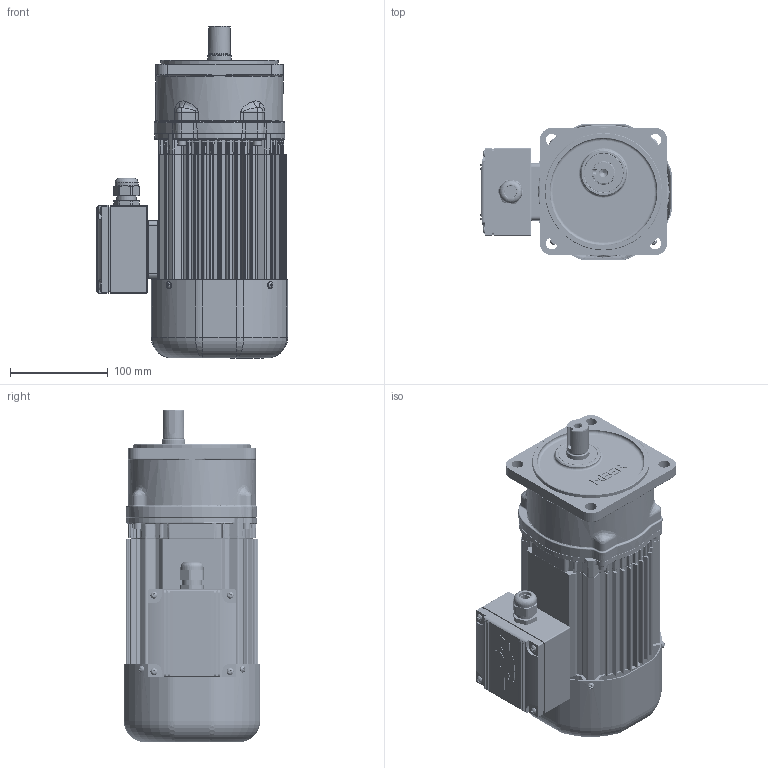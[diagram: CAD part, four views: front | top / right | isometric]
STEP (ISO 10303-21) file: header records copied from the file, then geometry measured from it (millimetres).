
FILE_DESCRIPTION(/* description */ (''),/* implementation_level */ '2;1');
FILE_NAME(/* name */ 'Z:\동력 3D 파일\PMK88_0.4kW_Brake_3D.stp',/* time_stamp */ '2021-11-18T16:30:04+09:00',/* author */ ('jaebok'),/* organization */ (''),/* preprocessor_version */ 'ST-DEVELOPER v18.1',/* originating_system */ 'Autodesk Inventor 2022',/* authorisation */ '');
FILE_SCHEMA (('AUTOMOTIVE_DESIGN { 1 0 10303 214 3 1 1 }'));
Products named in the file (1): 부품7
Bounding box: 195.7 x 139.4 x 339.5 mm (x, y, z)
Volume: 1515448.5 mm3; surface area: 565848.7 mm2
Topology: 3 solids, 34 shells, 3716 faces, 9258 edges, 5569 vertices
Faces by surface type: plane 1204, cylinder 1007, bspline 881, torus 328, cone 216, sphere 80
Full cylindrical faces by diameter (mm): 1.5 x2, 2 x5, 3 x8, 3.242 x4, 3.25 x1, 3.3 x4, 3.6 x4, 3.8 x3, 4 x25, 4.2 x12, 5 x31, 5.5 x4, 5.8 x2, 5.9 x3, 6 x18, 6.4 x1, 6.5 x6, 7 x12, 7.9 x6, 8 x9, 8.5 x5, 8.7 x1, 10 x1, 12 x4, 12.5 x1, 14 x1, 15 x1, 15.5 x1, 18 x1, 19 x1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
Entity records: 144169 total; most frequent: CARTESIAN_POINT 57241, ORIENTED_EDGE 18136, DIRECTION 16405, EDGE_CURVE 9068, AXIS2_PLACEMENT_3D 6631, VERTEX_POINT 5564, EDGE_LOOP 3998, FACE_OUTER_BOUND 3716
